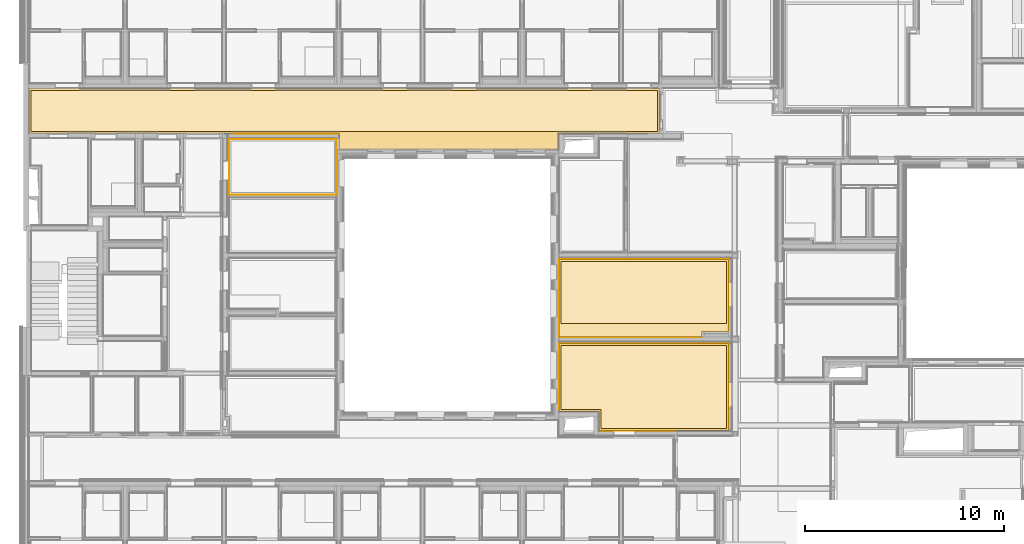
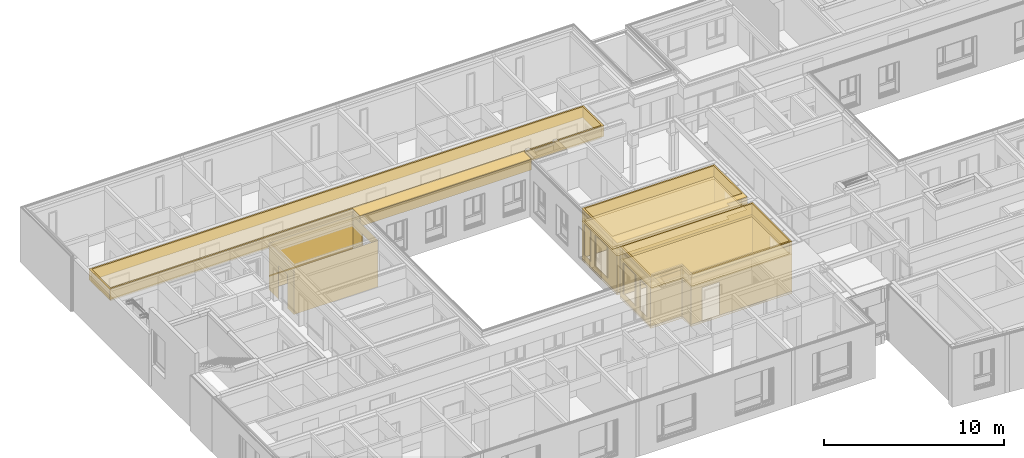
# One storey, part 162 of 222: 28 coverings.
"""IFC4 building model written with IfcOpenShell, lengths in metres."""

from ifc_helpers import new_model, entity, si_unit, converted_unit, derived_unit, frame, frame_2d, origin, origin_with_axes, place, context, subcontext, project, spatial, polyline, rectangle, outline, extrude, material, layer, layer_set, layer_usage, element, save


model = new_model("IFC4")

# Units and contexts
model_context = context("Model", 3, precision=1e-05, world=origin())
body_context = subcontext(model_context, "Body", "Model", "MODEL_VIEW")
ifc_project = project(units=[si_unit("LENGTHUNIT", "METRE"), si_unit("AREAUNIT", "SQUARE_METRE"), si_unit("VOLUMEUNIT", "CUBIC_METRE"), si_unit("MASSUNIT", "GRAM", prefix="KILO"), converted_unit("PLANEANGLEUNIT", "DEGREE", entity("IfcPlaneAngleMeasure", 0.0174532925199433), si_unit("PLANEANGLEUNIT", "RADIAN"), dimensions=[0, 0, 0, 0, 0, 0, 0]), derived_unit("THERMALTRANSMITTANCEUNIT", [(si_unit("POWERUNIT", "WATT"), 1), (si_unit("THERMODYNAMICTEMPERATUREUNIT", "KELVIN"), -1), (si_unit("LENGTHUNIT", "METRE"), -2)]), derived_unit("VOLUMETRICFLOWRATEUNIT", [(si_unit("LENGTHUNIT", "METRE"), 3), (converted_unit("TIMEUNIT", "hour", entity("IfcTimeMeasure", 3600.0), si_unit("TIMEUNIT", "SECOND"), dimensions=[0, 0, 1, 0, 0, 0, 0]), -1), (si_unit("LENGTHUNIT", "METRE"), -1)])], contexts=[model_context])

# Site, building, storey, space
site_placement = place(None, origin())
site = spatial("IfcSite", under=ifc_project, at=site_placement, Name="Psychiatrie Neubau Wunstorf", CompositionType="ELEMENT")
building_placement = place(site_placement, origin())
building = spatial("IfcBuilding", under=site, at=building_placement, Name="Neubau H2 Stationsgebäude", CompositionType="ELEMENT")
storey_placement = place(building_placement, frame((0.0, 0.0, 3.6)))
storey = spatial("IfcBuildingStorey", under=building, at=storey_placement, Name="H2 Ebene +1", CompositionType="ELEMENT", Elevation=3.6)
space_1_placement = place(storey_placement, frame((0.169000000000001, 21.036, 0.0)))
space_1 = spatial("IfcSpace", under=storey, at=space_1_placement, Name="WUN-H2-E01-073", CompositionType="ELEMENT")

# Coverings
ifc_material_1 = material(Name="97")
ifc_layer_1 = layer(ifc_material_1, 0.001)
ifc_layer_set_1 = layer_set([ifc_layer_1])
ifc_layer_usage_1 = layer_usage(ifc_layer_set_1, "AXIS3", "POSITIVE", 0.0)
covering_1_placement = place(space_1_placement, frame((10.241, 0.799999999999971, 0.8)))
element("IfcCovering", 1, at=covering_1_placement, inside=space_1, material=ifc_layer_usage_1, Name="Handlauf", PredefinedType="CLADDING", context=body_context, shape_type="SweptSolid", body=[
    extrude(rectangle(XDim=5.379, YDim=0.1, at=frame_2d((2.6895, -0.05), x_axis=(1.0, 0.0))), frame((0.0, 0.0, 0.0), z_axis=(0.0, 1.0, 0.0), x_axis=(1.0, 0.0, 0.0)), (0.0, 0.0, 1.0), 0.001),
])
ifc_material_2 = material()
ifc_layer_2 = layer(ifc_material_2, 0.036)
ifc_layer_set_2 = layer_set([ifc_layer_2])
ifc_layer_usage_2 = layer_usage(ifc_layer_set_2, "AXIS3", "POSITIVE", 0.0)
covering_2_placement = place(space_1_placement, frame((0.0999999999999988, 0.90000000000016, 3.55)))
element("IfcCovering", 2, at=covering_2_placement, inside=space_1, material=ifc_layer_usage_2, Name="Gipsfaserplatten 2-lagig (BSK)", PredefinedType="CEILING", context=body_context, shape_type="SweptSolid", body=[
    extrude(rectangle(XDim=2.08149999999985, YDim=31.559, at=frame_2d((-15.7795, 1.04074999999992), x_axis=(0.0, 1.0))), frame((31.559, 2.08149999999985, 0.0), z_axis=(0.0, 0.0, -1.0), x_axis=(1.0, 0.0, 0.0)), (0.0, 0.0, 1.0), 0.036),
])
ifc_material_3 = material(Name="Installationshöhe")
ifc_layer_3 = layer(ifc_material_3, 0.714)
ifc_layer_set_3 = layer_set([ifc_layer_3])
ifc_layer_usage_3 = layer_usage(ifc_layer_set_3, "AXIS3", "POSITIVE", 0.0)
covering_3_placement = place(space_1_placement, frame((0.0999999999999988, 0.90000000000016, 3.514)))
element("IfcCovering", 3, at=covering_3_placement, inside=space_1, material=ifc_layer_usage_3, Name="Gipsfaserplatten 2-lagig (BSK)", PredefinedType="CEILING", context=body_context, shape_type="SweptSolid", body=[
    extrude(rectangle(XDim=2.08149999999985, YDim=31.559, at=frame_2d((-15.7795, 1.04074999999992), x_axis=(0.0, 1.0))), frame((31.559, 2.08149999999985, 0.0), z_axis=(0.0, 0.0, -1.0), x_axis=(1.0, 0.0, 0.0)), (0.0, 0.0, 1.0), 0.714),
])
ifc_material_4 = material(Name="Aa")
ifc_layer_4 = layer(ifc_material_4, 0.15)
ifc_layer_set_4 = layer_set([ifc_layer_4])
ifc_layer_usage_4 = layer_usage(ifc_layer_set_4, "AXIS3", "POSITIVE", 0.0)
covering_4_placement = place(space_1_placement, frame((0.0999999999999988, 0.90000000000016, 2.8)))
element("IfcCovering", 4, at=covering_4_placement, inside=space_1, material=ifc_layer_usage_4, Name="Gipsfaserplatten 2-lagig (BSK)", PredefinedType="CEILING", context=body_context, shape_type="SweptSolid", body=[
    extrude(rectangle(XDim=2.08149999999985, YDim=31.559, at=frame_2d((-15.7795, 1.04074999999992), x_axis=(0.0, 1.0))), frame((31.559, 2.08149999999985, 0.0), z_axis=(0.0, 0.0, -1.0), x_axis=(1.0, 0.0, 0.0)), (0.0, 0.0, 1.0), 0.15),
])
ifc_material_5 = material(Name="D1")
ifc_layer_5 = layer(ifc_material_5, 0.001)
ifc_layer_set_5 = layer_set([ifc_layer_5])
ifc_layer_usage_5 = layer_usage(ifc_layer_set_5, "AXIS3", "POSITIVE", 0.0)
covering_5_placement = place(space_1_placement, frame((0.0999999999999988, 0.90000000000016, 2.65)))
element("IfcCovering", 5, at=covering_5_placement, inside=space_1, material=ifc_layer_usage_5, Name="Gipsfaserplatten 2-lagig (BSK)", PredefinedType="CEILING", context=body_context, shape_type="SweptSolid", body=[
    extrude(rectangle(XDim=2.08149999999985, YDim=31.559, at=frame_2d((-15.7795, 1.04074999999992), x_axis=(0.0, 1.0))), frame((31.559, 2.08149999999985, 0.0), z_axis=(0.0, 0.0, -1.0), x_axis=(1.0, 0.0, 0.0)), (0.0, 0.0, 1.0), 0.001),
])
ifc_material_6 = material()
ifc_layer_6 = layer(ifc_material_6, 0.036)
ifc_layer_set_6 = layer_set([ifc_layer_6])
ifc_layer_usage_6 = layer_usage(ifc_layer_set_6, "AXIS3", "POSITIVE", 0.0)
covering_6_placement = place(space_1_placement, frame((0.0, 0.0, 3.55)))
element("IfcCovering", 6, at=covering_6_placement, inside=space_1, material=ifc_layer_usage_6, Name="Gipsfaserplatten 2-lagig (BSK)", PredefinedType="CEILING", context=body_context, shape_type="SweptSolid", body=[
    extrude(outline(polyline([(0.0, 2.28150000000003), (0.0, 0.0), (31.759, 0.0), (31.759, 2.28150000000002), (26.651, 2.2815), (26.651, 3.0815), (15.62, 3.0815), (15.62, 2.28150000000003), (0.0, 2.28150000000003)]), holes=[polyline([(0.1, 0.0999999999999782), (0.1, 2.18149999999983), (31.659, 2.18149999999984), (31.659, 0.0999999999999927), (0.1, 0.0999999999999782)])]), frame((0.0, 3.0815, 0.0), z_axis=(0.0, 0.0, -1.0), x_axis=(1.0, 0.0, 0.0)), (0.0, 0.0, 1.0), 0.036),
])
ifc_material_7 = material(Name="Installationshöhe")
ifc_layer_7 = layer(ifc_material_7, 0.714)
ifc_layer_set_7 = layer_set([ifc_layer_7])
ifc_layer_usage_7 = layer_usage(ifc_layer_set_7, "AXIS3", "POSITIVE", 0.0)
covering_7_placement = place(space_1_placement, frame((0.0, 0.0, 3.514)))
element("IfcCovering", 7, at=covering_7_placement, inside=space_1, material=ifc_layer_usage_7, Name="Gipsfaserplatten 2-lagig (BSK)", PredefinedType="CEILING", context=body_context, shape_type="SweptSolid", body=[
    extrude(outline(polyline([(0.0, 2.28150000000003), (0.0, 0.0), (31.759, 0.0), (31.759, 2.28150000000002), (26.651, 2.2815), (26.651, 3.0815), (15.62, 3.0815), (15.62, 2.28150000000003), (0.0, 2.28150000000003)]), holes=[polyline([(0.1, 0.0999999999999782), (0.1, 2.18149999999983), (31.659, 2.18149999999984), (31.659, 0.0999999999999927), (0.1, 0.0999999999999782)])]), frame((0.0, 3.0815, 0.0), z_axis=(0.0, 0.0, -1.0), x_axis=(1.0, 0.0, 0.0)), (0.0, 0.0, 1.0), 0.714),
])

# Space
space_2_placement = place(storey_placement, frame((10.2390000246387, 18.768, 0.0)))
space_2 = spatial("IfcSpace", under=storey, at=space_2_placement, Name="WUN-H2-E01-033", CompositionType="ELEMENT")

# Covering
ifc_material_8 = material(Name="49")
ifc_layer_8 = layer(ifc_material_8, 0.001)
ifc_layer_set_8 = layer_set([ifc_layer_8])
ifc_layer_usage_8 = layer_usage(ifc_layer_set_8, "AXIS3", "POSITIVE", 0.0)
covering_8_placement = place(space_2_placement, frame((0.0, 0.0, 0.15)))
element("IfcCovering", 8, at=covering_8_placement, inside=space_2, material=ifc_layer_usage_8, PredefinedType="CLADDING", context=body_context, shape_type="SweptSolid", body=[
    extrude(rectangle(XDim=5.39999997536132, YDim=3.15, at=frame_2d((2.69999998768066, -1.575), x_axis=(1.0, 0.0))), frame((5.39999997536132, 2.79599999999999, 0.0), z_axis=(0.0, -1.0, 0.0), x_axis=(-1.0, 0.0, 0.0)), (0.0, 0.0, 1.0), 0.001),
    extrude(outline(polyline([(0.0, 3.15), (1.086, 3.15), (1.086, 0.89), (2.096, 0.89), (2.096, 3.15), (2.79599999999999, 3.15), (2.79599999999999, 0.0), (0.0, 0.0), (0.0, 3.15)])), frame((0.0, 2.79599999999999, 3.15), z_axis=(1.0, 0.0, -1.88932951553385e-16), x_axis=(0.0, -1.0, 0.0)), (0.0, 0.0, 1.0), 0.001),
    extrude(rectangle(XDim=5.39999997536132, YDim=3.15, at=frame_2d((2.69999998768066, -1.575), x_axis=(1.0, 0.0))), frame((0.0, 0.0, 0.0), z_axis=(0.0, 1.0, 0.0), x_axis=(1.0, 0.0, 0.0)), (0.0, 0.0, 1.0), 0.001),
    extrude(outline(polyline([(0.0, 3.15), (2.79599999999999, 3.15), (2.79599999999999, 0.0), (0.0, 0.0), (0.0, 3.15)]), holes=[polyline([(1.75699999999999, 2.75), (0.406999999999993, 2.75), (0.406999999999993, 0.635), (1.75699999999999, 0.635), (1.75699999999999, 2.75)])]), frame((5.39999997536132, 0.0, 3.15), z_axis=(-1.0, 0.0, 0.0), x_axis=(0.0, 1.0, 0.0)), (0.0, 0.0, 1.0), 0.001),
    extrude(rectangle(XDim=1.35, YDim=0.05, at=frame_2d((-0.025, -0.675), x_axis=(0.0, -1.0))), frame((5.44999997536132, 0.406999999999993, 2.515), z_axis=(0.0, 0.0, -1.0), x_axis=(1.0, 0.0, 0.0)), (0.0, 0.0, 1.0), 0.001),
    extrude(rectangle(XDim=2.115, YDim=0.05, at=frame_2d((-0.025, -1.0575), x_axis=(0.0, -1.0))), frame((5.44999997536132, 0.406999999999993, 0.4), z_axis=(0.0, 1.0, 0.0), x_axis=(1.0, 0.0, 0.0)), (0.0, 0.0, 1.0), 0.001),
    extrude(rectangle(XDim=2.115, YDim=0.05, at=frame_2d((-0.025, -1.0575), x_axis=(0.0, -1.0))), frame((5.39999997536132, 1.75699999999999, 0.4), z_axis=(0.0, -1.0, 0.0), x_axis=(-1.0, 0.0, 0.0)), (0.0, 0.0, 1.0), 0.001),
])

# Space
space_3_placement = place(storey_placement, frame((26.861, 6.88399999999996, 0.0)))
space_3 = spatial("IfcSpace", under=storey, at=space_3_placement, Name="WUN-H2-E01-073", CompositionType="ELEMENT")

# Coverings
ifc_material_9 = material()
ifc_layer_9 = layer(ifc_material_9, 0.036)
ifc_layer_set_9 = layer_set([ifc_layer_9])
ifc_layer_usage_9 = layer_usage(ifc_layer_set_9, "AXIS3", "POSITIVE", 0.0)
covering_9_placement = place(space_3_placement, frame((0.1, 0.100000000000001, 3.55)))
element("IfcCovering", 9, at=covering_9_placement, inside=space_3, material=ifc_layer_usage_9, Name="Gipsfaserplatten 2-lagig (BSK)", PredefinedType="CEILING", context=body_context, shape_type="SweptSolid", body=[
    extrude(outline(polyline([(0.0, 0.0), (8.31900000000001, 0.0), (8.31900000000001, 4.18355754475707), (2.01900000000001, 4.18355754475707), (2.01900000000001, 3.21255754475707), (0.0, 3.21255754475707), (0.0, 0.0)])), frame((0.0, 4.18355754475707, 0.0), z_axis=(0.0, 0.0, -1.0), x_axis=(1.0, 0.0, 0.0)), (0.0, 0.0, 1.0), 0.036),
])
ifc_material_10 = material(Name="Installationshöhe")
ifc_layer_10 = layer(ifc_material_10, 0.714)
ifc_layer_set_10 = layer_set([ifc_layer_10])
ifc_layer_usage_10 = layer_usage(ifc_layer_set_10, "AXIS3", "POSITIVE", 0.0)
covering_10_placement = place(space_3_placement, frame((0.1, 0.100000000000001, 3.514)))
element("IfcCovering", 10, at=covering_10_placement, inside=space_3, material=ifc_layer_usage_10, Name="Gipsfaserplatten 2-lagig (BSK)", PredefinedType="CEILING", context=body_context, shape_type="SweptSolid", body=[
    extrude(outline(polyline([(0.0, 0.0), (8.31900000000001, 0.0), (8.31900000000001, 4.18355754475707), (2.01900000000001, 4.18355754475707), (2.01900000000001, 3.21255754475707), (0.0, 3.21255754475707), (0.0, 0.0)])), frame((0.0, 4.18355754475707, 0.0), z_axis=(0.0, 0.0, -1.0), x_axis=(1.0, 0.0, 0.0)), (0.0, 0.0, 1.0), 0.714),
])
ifc_material_11 = material(Name="Aa")
ifc_layer_11 = layer(ifc_material_11, 0.15)
ifc_layer_set_11 = layer_set([ifc_layer_11])
ifc_layer_usage_11 = layer_usage(ifc_layer_set_11, "AXIS3", "POSITIVE", 0.0)
covering_11_placement = place(space_3_placement, frame((0.1, 0.100000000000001, 2.8)))
element("IfcCovering", 11, at=covering_11_placement, inside=space_3, material=ifc_layer_usage_11, Name="Gipsfaserplatten 2-lagig (BSK)", PredefinedType="CEILING", context=body_context, shape_type="SweptSolid", body=[
    extrude(outline(polyline([(0.0, 0.0), (8.31900000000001, 0.0), (8.31900000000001, 4.18355754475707), (2.01900000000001, 4.18355754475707), (2.01900000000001, 3.21255754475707), (0.0, 3.21255754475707), (0.0, 0.0)])), frame((0.0, 4.18355754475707, 0.0), z_axis=(0.0, 0.0, -1.0), x_axis=(1.0, 0.0, 0.0)), (0.0, 0.0, 1.0), 0.15),
])
ifc_material_12 = material(Name="D1")
ifc_layer_12 = layer(ifc_material_12, 0.001)
ifc_layer_set_12 = layer_set([ifc_layer_12])
ifc_layer_usage_12 = layer_usage(ifc_layer_set_12, "AXIS3", "POSITIVE", 0.0)
covering_12_placement = place(space_3_placement, frame((0.1, 0.100000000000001, 2.65)))
element("IfcCovering", 12, at=covering_12_placement, inside=space_3, material=ifc_layer_usage_12, Name="Gipsfaserplatten 2-lagig (BSK)", PredefinedType="CEILING", context=body_context, shape_type="SweptSolid", body=[
    extrude(outline(polyline([(0.0, 0.0), (8.31900000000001, 0.0), (8.31900000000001, 4.18355754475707), (2.01900000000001, 4.18355754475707), (2.01900000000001, 3.21255754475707), (0.0, 3.21255754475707), (0.0, 0.0)])), frame((0.0, 4.18355754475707, 0.0), z_axis=(0.0, 0.0, -1.0), x_axis=(1.0, 0.0, 0.0)), (0.0, 0.0, 1.0), 0.001),
])
ifc_material_13 = material()
ifc_layer_13 = layer(ifc_material_13, 0.036)
ifc_layer_set_13 = layer_set([ifc_layer_13])
ifc_layer_usage_13 = layer_usage(ifc_layer_set_13, "AXIS3", "POSITIVE", 0.0)
covering_13_placement = place(space_3_placement, frame((0.0, 0.0, 3.55)))
element("IfcCovering", 13, at=covering_13_placement, inside=space_3, material=ifc_layer_usage_13, Name="Gipsfaserplatten 2-lagig (BSK)", PredefinedType="CEILING", context=body_context, shape_type="SweptSolid", body=[
    extrude(outline(polyline([(2.01900000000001, 3.41255754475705), (0.0, 3.41255754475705), (0.0, 0.0), (8.51900000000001, 0.0), (8.51900000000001, 4.38355754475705), (2.01900000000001, 4.38355754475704), (2.01900000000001, 3.41255754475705)]), holes=[polyline([(2.11900000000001, 3.31255754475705), (2.11900000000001, 4.28355754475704), (8.41900000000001, 4.28355754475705), (8.41900000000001, 0.0999999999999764), (0.1, 0.0999999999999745), (0.1, 3.31255754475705), (2.11900000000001, 3.31255754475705)])]), frame((0.0, 4.38355754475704, 0.0), z_axis=(0.0, 0.0, -1.0), x_axis=(1.0, 0.0, 0.0)), (0.0, 0.0, 1.0), 0.036),
])
ifc_material_14 = material(Name="Installationshöhe")
ifc_layer_14 = layer(ifc_material_14, 0.714)
ifc_layer_set_14 = layer_set([ifc_layer_14])
ifc_layer_usage_14 = layer_usage(ifc_layer_set_14, "AXIS3", "POSITIVE", 0.0)
covering_14_placement = place(space_3_placement, frame((0.0, 0.0, 3.514)))
element("IfcCovering", 14, at=covering_14_placement, inside=space_3, material=ifc_layer_usage_14, Name="Gipsfaserplatten 2-lagig (BSK)", PredefinedType="CEILING", context=body_context, shape_type="SweptSolid", body=[
    extrude(outline(polyline([(2.01900000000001, 3.41255754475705), (0.0, 3.41255754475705), (0.0, 0.0), (8.51900000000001, 0.0), (8.51900000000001, 4.38355754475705), (2.01900000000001, 4.38355754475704), (2.01900000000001, 3.41255754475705)]), holes=[polyline([(2.11900000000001, 3.31255754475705), (2.11900000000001, 4.28355754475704), (8.41900000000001, 4.28355754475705), (8.41900000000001, 0.0999999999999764), (0.1, 0.0999999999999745), (0.1, 3.31255754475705), (2.11900000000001, 3.31255754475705)])]), frame((0.0, 4.38355754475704, 0.0), z_axis=(0.0, 0.0, -1.0), x_axis=(1.0, 0.0, 0.0)), (0.0, 0.0, 1.0), 0.714),
])
ifc_material_15 = material(Name="A1")
ifc_layer_15 = layer(ifc_material_15, 0.15)
ifc_layer_set_15 = layer_set([ifc_layer_15])
ifc_layer_usage_15 = layer_usage(ifc_layer_set_15, "AXIS3", "POSITIVE", 0.0)
covering_15_placement = place(space_3_placement, frame((0.0, 0.0, 2.8)))
element("IfcCovering", 15, at=covering_15_placement, inside=space_3, material=ifc_layer_usage_15, Name="Gipsfaserplatten 2-lagig (BSK)", PredefinedType="CEILING", context=body_context, shape_type="SweptSolid", body=[
    extrude(outline(polyline([(2.01900000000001, 3.41255754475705), (0.0, 3.41255754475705), (0.0, 0.0), (8.51900000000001, 0.0), (8.51900000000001, 4.38355754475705), (2.01900000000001, 4.38355754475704), (2.01900000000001, 3.41255754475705)]), holes=[polyline([(2.11900000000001, 3.31255754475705), (2.11900000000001, 4.28355754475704), (8.41900000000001, 4.28355754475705), (8.41900000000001, 0.0999999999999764), (0.1, 0.0999999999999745), (0.1, 3.31255754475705), (2.11900000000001, 3.31255754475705)])]), frame((0.0, 4.38355754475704, 0.0), z_axis=(0.0, 0.0, -1.0), x_axis=(1.0, 0.0, 0.0)), (0.0, 0.0, 1.0), 0.15),
])
ifc_material_16 = material(Name="D1")
ifc_layer_16 = layer(ifc_material_16, 0.001)
ifc_layer_set_16 = layer_set([ifc_layer_16])
ifc_layer_usage_16 = layer_usage(ifc_layer_set_16, "AXIS3", "POSITIVE", 0.0)
covering_16_placement = place(space_3_placement, frame((0.0, 0.0, 2.65)))
element("IfcCovering", 16, at=covering_16_placement, inside=space_3, material=ifc_layer_usage_16, Name="Gipsfaserplatten 2-lagig (BSK)", PredefinedType="CEILING", context=body_context, shape_type="SweptSolid", body=[
    extrude(outline(polyline([(2.01900000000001, 3.41255754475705), (0.0, 3.41255754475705), (0.0, 0.0), (8.51900000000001, 0.0), (8.51900000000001, 4.38355754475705), (2.01900000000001, 4.38355754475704), (2.01900000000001, 3.41255754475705)]), holes=[polyline([(2.11900000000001, 3.31255754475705), (2.11900000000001, 4.28355754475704), (8.41900000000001, 4.28355754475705), (8.41900000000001, 0.0999999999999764), (0.1, 0.0999999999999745), (0.1, 3.31255754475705), (2.11900000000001, 3.31255754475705)])]), frame((0.0, 4.38355754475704, 0.0), z_axis=(0.0, 0.0, -1.0), x_axis=(1.0, 0.0, 0.0)), (0.0, 0.0, 1.0), 0.001),
])
ifc_material_17 = material(Name="Ku1")
ifc_layer_17 = layer(ifc_material_17, 0.15)
ifc_layer_set_17 = layer_set([ifc_layer_17])
ifc_layer_usage_17 = layer_usage(ifc_layer_set_17, "AXIS3", "POSITIVE", 0.0)
covering_17_placement = place(space_3_placement, origin())
element("IfcCovering", 17, at=covering_17_placement, inside=space_3, material=ifc_layer_usage_17, Name="PVC Bahnenware Holzoptik", PredefinedType="FLOORING", context=body_context, shape_type="SweptSolid", body=[
    extrude(rectangle(XDim=0.19, YDim=1.26, at=frame_2d((-0.095, -0.63), x_axis=(-1.0, 0.0))), frame((8.70900000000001, 2.42600413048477, 0.0), z_axis=(0.0, 0.0, 1.0), x_axis=(1.0, 0.0, 0.0)), (0.0, 0.0, 1.0), 0.15),
    extrude(outline(polyline([(0.0, 4.38355754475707), (0.0, 0.971), (2.01900000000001, 0.971), (2.01900000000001, 0.0), (8.51900000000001, 0.0), (8.51900000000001, 4.38355754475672), (0.0, 4.38355754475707)])), origin_with_axes(), (0.0, 0.0, 1.0), 0.15),
])
ifc_material_18 = material(Name="49")
ifc_layer_18 = layer(ifc_material_18, 0.001)
ifc_layer_set_18 = layer_set([ifc_layer_18])
ifc_layer_usage_18 = layer_usage(ifc_layer_set_18, "AXIS3", "POSITIVE", 0.0)
covering_18_placement = place(space_3_placement, frame((-0.05, 0.0, 0.15)))
element("IfcCovering", 18, at=covering_18_placement, inside=space_3, material=ifc_layer_usage_18, PredefinedType="CLADDING", context=body_context, shape_type="SweptSolid", body=[
    extrude(outline(polyline([(0.0, 3.15), (1.16600413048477, 3.15), (1.16600413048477, 0.89), (2.42600413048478, 0.89), (2.42600413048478, 3.15), (4.38355754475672, 3.15), (4.38355754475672, 0.0), (0.0, 0.0), (0.0, 3.15)])), frame((8.56900000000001, 0.0, 3.15), z_axis=(-1.0, 1.53289147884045e-15, 5.90285882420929e-16), x_axis=(1.53289147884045e-15, 1.0, 0.0)), (0.0, 0.0, 1.0), 0.001),
    extrude(rectangle(XDim=8.51900000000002, YDim=3.15, at=frame_2d((4.25950000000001, -1.575), x_axis=(1.0, 0.0))), frame((8.56900000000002, 4.38355754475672, 0.0), z_axis=(-4.16366866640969e-14, -1.0, 0.0), x_axis=(-1.0, 4.16366866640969e-14, 0.0)), (0.0, 0.0, 1.0), 0.001),
    extrude(outline(polyline([(0.0, 3.15), (3.41255754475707, 3.15), (3.41255754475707, 0.0), (0.0, 0.0), (0.0, 3.15)]), holes=[polyline([(1.77511276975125, 2.75), (0.425112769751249, 2.75), (0.425112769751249, 0.635), (1.77511276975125, 0.635), (1.77511276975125, 2.75)]), polyline([(3.02511275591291, 2.75), (2.30011275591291, 2.75), (2.30011275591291, 0.635), (3.02511275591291, 0.635), (3.02511275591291, 2.75)])]), frame((0.0500000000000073, 4.38355754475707, 3.15), z_axis=(1.0, 4.73539006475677e-16, 0.0), x_axis=(4.73539006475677e-16, -1.0, 0.0)), (0.0, 0.0, 1.0), 0.001),
    extrude(rectangle(XDim=2.01900000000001, YDim=3.15, at=frame_2d((1.00950000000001, -1.575), x_axis=(1.0, 0.0))), frame((0.05, 0.971000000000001, 0.0), z_axis=(0.0, 1.0, 0.0), x_axis=(1.0, 0.0, 0.0)), (0.0, 0.0, 1.0), 0.001),
    extrude(rectangle(XDim=0.970999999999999, YDim=3.15, at=frame_2d((0.4855, -1.575), x_axis=(1.0, 0.0))), frame((2.06900000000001, 0.971000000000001, 0.0), z_axis=(1.0, 0.0, 0.0), x_axis=(0.0, -1.0, 0.0)), (0.0, 0.0, 1.0), 0.001),
    extrude(outline(polyline([(0.0, 3.15), (0.699999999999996, 3.15), (0.699999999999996, 0.89), (1.835, 0.89), (1.835, 3.15), (6.5, 3.15), (6.5, 0.0), (0.0, 0.0), (0.0, 3.15)])), frame((2.06900000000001, 0.0, 3.15), z_axis=(2.19046199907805e-16, 1.0, -8.8063860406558e-18), x_axis=(1.0, -2.19046199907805e-16, 0.0)), (0.0, 0.0, 1.0), 0.001),
    extrude(rectangle(XDim=1.35, YDim=0.05, at=frame_2d((0.025, 0.675), x_axis=(0.0, 1.0))), frame((0.0, 3.95844477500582, 2.515), z_axis=(0.0, 0.0, -1.0), x_axis=(1.0, 0.0, 0.0)), (0.0, 0.0, 1.0), 0.001),
    extrude(rectangle(XDim=2.115, YDim=0.05, at=frame_2d((-0.025, -1.0575), x_axis=(0.0, -1.0))), frame((0.0, 3.95844477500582, 0.4), z_axis=(0.0, -1.0, 0.0), x_axis=(-1.0, 0.0, 0.0)), (0.0, 0.0, 1.0), 0.001),
    extrude(rectangle(XDim=2.115, YDim=0.05, at=frame_2d((-0.025, -1.0575), x_axis=(0.0, -1.0))), frame((0.05, 2.60844477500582, 0.4), z_axis=(0.0, 1.0, 0.0), x_axis=(1.0, 0.0, 0.0)), (0.0, 0.0, 1.0), 0.001),
    extrude(rectangle(XDim=0.0500000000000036, YDim=0.725, at=frame_2d((-0.0250000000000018, 0.3625), x_axis=(-1.0, 0.0))), frame((0.0500000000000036, 2.08344478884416, 2.515), z_axis=(0.0, 0.0, -1.0), x_axis=(1.0, 0.0, 0.0)), (0.0, 0.0, 1.0), 0.001),
    extrude(rectangle(XDim=0.0500000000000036, YDim=2.115, at=frame_2d((0.0250000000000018, -1.0575), x_axis=(1.0, 0.0))), frame((0.0500000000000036, 2.08344478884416, 0.4), z_axis=(0.0, -1.0, 0.0), x_axis=(-1.0, 0.0, 0.0)), (0.0, 0.0, 1.0), 0.001),
    extrude(rectangle(XDim=2.115, YDim=0.0500000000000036, at=frame_2d((-0.0250000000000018, -1.0575), x_axis=(0.0, -1.0))), frame((0.0500000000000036, 1.35844478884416, 0.4), z_axis=(0.0, 1.0, 0.0), x_axis=(1.0, 0.0, 0.0)), (0.0, 0.0, 1.0), 0.001),
])

# Space
space_4_placement = place(storey_placement, frame((26.861, 11.5895607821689, 0.0)))
space_4 = spatial("IfcSpace", under=storey, at=space_4_placement, Name="WUN-H2-E01-073", CompositionType="ELEMENT")

# Coverings
ifc_material_19 = material()
ifc_layer_19 = layer(ifc_material_19, 0.036)
ifc_layer_set_19 = layer_set([ifc_layer_19])
ifc_layer_usage_19 = layer_usage(ifc_layer_set_19, "AXIS3", "POSITIVE", 0.0)
covering_19_placement = place(space_4_placement, frame((0.100000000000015, 0.699996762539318, 3.55)))
element("IfcCovering", 19, at=covering_19_placement, inside=space_4, material=ifc_layer_usage_19, Name="Gipsfaserplatten 2-lagig (BSK)", PredefinedType="CEILING", context=body_context, shape_type="SweptSolid", body=[
    extrude(rectangle(XDim=3.12094154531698, YDim=8.319, at=frame_2d((-4.1595, 1.56047077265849), x_axis=(0.0, 1.0))), frame((8.319, 3.12094154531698, 0.0), z_axis=(0.0, 0.0, -1.0), x_axis=(1.0, 0.0, 0.0)), (0.0, 0.0, 1.0), 0.036),
])
ifc_material_20 = material(Name="Installationshöhe")
ifc_layer_20 = layer(ifc_material_20, 0.714)
ifc_layer_set_20 = layer_set([ifc_layer_20])
ifc_layer_usage_20 = layer_usage(ifc_layer_set_20, "AXIS3", "POSITIVE", 0.0)
covering_20_placement = place(space_4_placement, frame((0.100000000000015, 0.699996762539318, 3.514)))
element("IfcCovering", 20, at=covering_20_placement, inside=space_4, material=ifc_layer_usage_20, Name="Gipsfaserplatten 2-lagig (BSK)", PredefinedType="CEILING", context=body_context, shape_type="SweptSolid", body=[
    extrude(rectangle(XDim=3.12094154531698, YDim=8.319, at=frame_2d((-4.1595, 1.56047077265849), x_axis=(0.0, 1.0))), frame((8.319, 3.12094154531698, 0.0), z_axis=(0.0, 0.0, -1.0), x_axis=(1.0, 0.0, 0.0)), (0.0, 0.0, 1.0), 0.714),
])
ifc_material_21 = material(Name="Aa")
ifc_layer_21 = layer(ifc_material_21, 0.15)
ifc_layer_set_21 = layer_set([ifc_layer_21])
ifc_layer_usage_21 = layer_usage(ifc_layer_set_21, "AXIS3", "POSITIVE", 0.0)
covering_21_placement = place(space_4_placement, frame((0.100000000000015, 0.699996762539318, 2.8)))
element("IfcCovering", 21, at=covering_21_placement, inside=space_4, material=ifc_layer_usage_21, Name="Gipsfaserplatten 2-lagig (BSK)", PredefinedType="CEILING", context=body_context, shape_type="SweptSolid", body=[
    extrude(rectangle(XDim=3.12094154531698, YDim=8.319, at=frame_2d((-4.1595, 1.56047077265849), x_axis=(0.0, 1.0))), frame((8.319, 3.12094154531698, 0.0), z_axis=(0.0, 0.0, -1.0), x_axis=(1.0, 0.0, 0.0)), (0.0, 0.0, 1.0), 0.15),
])
ifc_material_22 = material(Name="D1")
ifc_layer_22 = layer(ifc_material_22, 0.001)
ifc_layer_set_22 = layer_set([ifc_layer_22])
ifc_layer_usage_22 = layer_usage(ifc_layer_set_22, "AXIS3", "POSITIVE", 0.0)
covering_22_placement = place(space_4_placement, frame((0.100000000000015, 0.699996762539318, 2.65)))
element("IfcCovering", 22, at=covering_22_placement, inside=space_4, material=ifc_layer_usage_22, Name="Gipsfaserplatten 2-lagig (BSK)", PredefinedType="CEILING", context=body_context, shape_type="SweptSolid", body=[
    extrude(rectangle(XDim=3.12094154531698, YDim=8.319, at=frame_2d((-4.1595, 1.56047077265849), x_axis=(0.0, 1.0))), frame((8.319, 3.12094154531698, 0.0), z_axis=(0.0, 0.0, -1.0), x_axis=(1.0, 0.0, 0.0)), (0.0, 0.0, 1.0), 0.001),
])
ifc_material_23 = material()
ifc_layer_23 = layer(ifc_material_23, 0.036)
ifc_layer_set_23 = layer_set([ifc_layer_23])
ifc_layer_usage_23 = layer_usage(ifc_layer_set_23, "AXIS3", "POSITIVE", 0.0)
covering_23_placement = place(space_4_placement, frame((0.0, -3.23741189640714e-06, 3.55)))
element("IfcCovering", 23, at=covering_23_placement, inside=space_4, material=ifc_layer_usage_23, Name="Gipsfaserplatten 2-lagig (BSK)", PredefinedType="CEILING", context=body_context, shape_type="SweptSolid", body=[
    extrude(outline(polyline([(0.0, 3.9209415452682), (0.0, 0.0), (8.51900000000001, 0.0), (8.519, 3.64594478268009), (7.20900000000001, 3.64594478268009), (7.20900000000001, 3.9209415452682), (0.0, 3.9209415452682)]), holes=[polyline([(8.419, 0.1), (0.1, 0.1), (0.1, 3.22094154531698), (8.419, 3.22094154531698), (8.419, 0.1)])]), frame((0.0, 3.92094154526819, 0.0), z_axis=(0.0, 0.0, -1.0), x_axis=(1.0, 0.0, 0.0)), (0.0, 0.0, 1.0), 0.036),
])
ifc_material_24 = material(Name="Installationshöhe")
ifc_layer_24 = layer(ifc_material_24, 0.714)
ifc_layer_set_24 = layer_set([ifc_layer_24])
ifc_layer_usage_24 = layer_usage(ifc_layer_set_24, "AXIS3", "POSITIVE", 0.0)
covering_24_placement = place(space_4_placement, frame((0.0, -3.23741189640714e-06, 3.514)))
element("IfcCovering", 24, at=covering_24_placement, inside=space_4, material=ifc_layer_usage_24, Name="Gipsfaserplatten 2-lagig (BSK)", PredefinedType="CEILING", context=body_context, shape_type="SweptSolid", body=[
    extrude(outline(polyline([(0.0, 3.9209415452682), (0.0, 0.0), (8.51900000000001, 0.0), (8.519, 3.64594478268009), (7.20900000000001, 3.64594478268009), (7.20900000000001, 3.9209415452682), (0.0, 3.9209415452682)]), holes=[polyline([(8.419, 0.1), (0.1, 0.1), (0.1, 3.22094154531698), (8.419, 3.22094154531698), (8.419, 0.1)])]), frame((0.0, 3.92094154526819, 0.0), z_axis=(0.0, 0.0, -1.0), x_axis=(1.0, 0.0, 0.0)), (0.0, 0.0, 1.0), 0.714),
])
ifc_material_25 = material(Name="A1")
ifc_layer_25 = layer(ifc_material_25, 0.15)
ifc_layer_set_25 = layer_set([ifc_layer_25])
ifc_layer_usage_25 = layer_usage(ifc_layer_set_25, "AXIS3", "POSITIVE", 0.0)
covering_25_placement = place(space_4_placement, frame((0.0, -3.23741189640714e-06, 2.8)))
element("IfcCovering", 25, at=covering_25_placement, inside=space_4, material=ifc_layer_usage_25, Name="Gipsfaserplatten 2-lagig (BSK)", PredefinedType="CEILING", context=body_context, shape_type="SweptSolid", body=[
    extrude(outline(polyline([(0.0, 3.9209415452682), (0.0, 0.0), (8.51900000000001, 0.0), (8.519, 3.64594478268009), (7.20900000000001, 3.64594478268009), (7.20900000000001, 3.9209415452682), (0.0, 3.9209415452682)]), holes=[polyline([(8.419, 0.1), (0.1, 0.1), (0.1, 3.22094154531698), (8.419, 3.22094154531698), (8.419, 0.1)])]), frame((0.0, 3.92094154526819, 0.0), z_axis=(0.0, 0.0, -1.0), x_axis=(1.0, 0.0, 0.0)), (0.0, 0.0, 1.0), 0.15),
])
ifc_material_26 = material(Name="D1")
ifc_layer_26 = layer(ifc_material_26, 0.001)
ifc_layer_set_26 = layer_set([ifc_layer_26])
ifc_layer_usage_26 = layer_usage(ifc_layer_set_26, "AXIS3", "POSITIVE", 0.0)
covering_26_placement = place(space_4_placement, frame((0.0, -3.23741189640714e-06, 2.65)))
element("IfcCovering", 26, at=covering_26_placement, inside=space_4, material=ifc_layer_usage_26, Name="Gipsfaserplatten 2-lagig (BSK)", PredefinedType="CEILING", context=body_context, shape_type="SweptSolid", body=[
    extrude(outline(polyline([(0.0, 3.9209415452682), (0.0, 0.0), (8.51900000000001, 0.0), (8.519, 3.64594478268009), (7.20900000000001, 3.64594478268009), (7.20900000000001, 3.9209415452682), (0.0, 3.9209415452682)]), holes=[polyline([(8.419, 0.1), (0.1, 0.1), (0.1, 3.22094154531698), (8.419, 3.22094154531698), (8.419, 0.1)])]), frame((0.0, 3.92094154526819, 0.0), z_axis=(0.0, 0.0, -1.0), x_axis=(1.0, 0.0, 0.0)), (0.0, 0.0, 1.0), 0.001),
])
ifc_material_27 = material(Name="Ku1")
ifc_layer_27 = layer(ifc_material_27, 0.15)
ifc_layer_set_27 = layer_set([ifc_layer_27])
ifc_layer_usage_27 = layer_usage(ifc_layer_set_27, "AXIS3", "POSITIVE", 0.0)
covering_27_placement = place(space_4_placement, origin())
element("IfcCovering", 27, at=covering_27_placement, inside=space_4, material=ifc_layer_usage_27, Name="PVC Bahnenware Holzoptik", PredefinedType="FLOORING", context=body_context, shape_type="SweptSolid", body=[
    extrude(rectangle(XDim=0.19, YDim=1.26, at=frame_2d((-0.095, -0.63), x_axis=(-1.0, 0.0))), frame((8.70900000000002, 2.77043921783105, 0.0), z_axis=(0.0, 0.0, 1.0), x_axis=(1.0, 0.0, 0.0)), (0.0, 0.0, 1.0), 0.15),
    extrude(outline(polyline([(8.51900000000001, 3.9209383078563), (0.0, 3.9209383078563), (0.0, 0.0), (7.20900000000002, 0.0), (7.20900000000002, 0.274993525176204), (8.51900000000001, 0.274993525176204), (8.51900000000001, 3.9209383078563)])), origin_with_axes(), (0.0, 0.0, 1.0), 0.15),
])
ifc_material_28 = material(Name="49")
ifc_layer_28 = layer(ifc_material_28, 0.001)
ifc_layer_set_28 = layer_set([ifc_layer_28])
ifc_layer_usage_28 = layer_usage(ifc_layer_set_28, "AXIS3", "POSITIVE", 0.0)
covering_28_placement = place(space_4_placement, frame((-0.0499999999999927, 0.0, 0.15)))
element("IfcCovering", 28, at=covering_28_placement, inside=space_4, material=ifc_layer_usage_28, PredefinedType="CLADDING", context=body_context, shape_type="SweptSolid", body=[
    extrude(rectangle(XDim=1.30999999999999, YDim=3.15, at=frame_2d((0.654999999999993, -1.575), x_axis=(1.0, 0.0))), frame((7.25900000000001, 0.274993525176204, 0.0), z_axis=(0.0, 1.0, 0.0), x_axis=(1.0, 0.0, 0.0)), (0.0, 0.0, 1.0), 0.001),
    extrude(outline(polyline([(0.0, 3.15), (1.23544569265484, 3.15), (1.23544569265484, 0.89), (2.49544569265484, 0.89), (2.49544569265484, 3.15), (3.64594478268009, 3.15), (3.64594478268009, 0.0), (0.0, 0.0), (0.0, 3.15)])), frame((8.56900000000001, 0.274993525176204, 3.15), z_axis=(-1.0, 1.68673336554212e-15, 1.2235889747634e-17), x_axis=(1.68673336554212e-15, 1.0, 0.0)), (0.0, 0.0, 1.0), 0.001),
    extrude(rectangle(XDim=8.519, YDim=3.15, at=frame_2d((4.2595, -1.575), x_axis=(1.0, 0.0))), frame((8.56900000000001, 3.9209383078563, 0.0), z_axis=(0.0, -1.0, 0.0), x_axis=(-1.0, 0.0, 0.0)), (0.0, 0.0, 1.0), 0.001),
    extrude(outline(polyline([(0.0, 3.15), (3.9209383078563, 3.15), (3.9209383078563, 0.0), (0.0, 0.0), (0.0, 3.15)]), holes=[polyline([(1.02044154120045, 2.75), (0.295441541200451, 2.75), (0.295441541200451, 0.635), (1.02044154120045, 0.635), (1.02044154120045, 2.75)]), polyline([(2.89469842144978, 2.75), (1.54469842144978, 2.75), (1.54469842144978, 0.635), (2.89469842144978, 0.635), (2.89469842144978, 2.75)])]), frame((0.0500000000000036, 3.9209383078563, 3.15), z_axis=(1.0, -2.12003972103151e-15, 0.0), x_axis=(-2.12003972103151e-15, -1.0, 0.0)), (0.0, 0.0, 1.0), 0.001),
    extrude(rectangle(XDim=7.20900000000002, YDim=3.15, at=frame_2d((3.60450000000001, -1.575), x_axis=(1.0, 0.0))), frame((0.0499999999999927, 0.0, 0.0), z_axis=(0.0, 1.0, 0.0), x_axis=(1.0, 0.0, 0.0)), (0.0, 0.0, 1.0), 0.001),
    extrude(rectangle(XDim=0.274993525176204, YDim=3.15, at=frame_2d((0.137496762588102, -1.575), x_axis=(1.0, 0.0))), frame((7.25900000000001, 0.0, 0.0), z_axis=(-1.0, 0.0, 0.0), x_axis=(0.0, 1.0, 0.0)), (0.0, 0.0, 1.0), 0.001),
    extrude(rectangle(XDim=0.724999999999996, YDim=0.0499999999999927, at=frame_2d((0.0249999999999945, 0.362499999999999), x_axis=(-5.01790180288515e-15, 1.0))), frame((0.0, 3.62549676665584, 2.515), z_axis=(0.0, 0.0, -1.0), x_axis=(1.0, 0.0, 0.0)), (0.0, 0.0, 1.0), 0.001),
    extrude(rectangle(XDim=2.115, YDim=0.0499999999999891, at=frame_2d((-0.0249999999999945, -1.0575), x_axis=(0.0, -1.0))), frame((0.0, 3.62549676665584, 0.4), z_axis=(3.63797880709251e-14, -1.0, 0.0), x_axis=(-1.0, -3.63797880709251e-14, 0.0)), (0.0, 0.0, 1.0), 0.001),
    extrude(rectangle(XDim=2.115, YDim=0.0499999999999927, at=frame_2d((-0.0249999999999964, -1.0575), x_axis=(0.0, -1.0))), frame((0.0499999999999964, 2.90049676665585, 0.4), z_axis=(3.63797880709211e-14, 1.0, -3.12881555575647e-29), x_axis=(1.0, -3.63797880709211e-14, 0.0)), (0.0, 0.0, 1.0), 0.001),
    extrude(rectangle(XDim=1.35, YDim=0.0499999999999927, at=frame_2d((0.0249999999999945, 0.675000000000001), x_axis=(-2.69479911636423e-15, 1.0))), frame((0.0, 2.37623988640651, 2.515), z_axis=(0.0, 0.0, -1.0), x_axis=(1.0, 0.0, 0.0)), (0.0, 0.0, 1.0), 0.001),
    extrude(rectangle(XDim=2.115, YDim=0.0499999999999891, at=frame_2d((-0.0249999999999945, -1.0575), x_axis=(0.0, -1.0))), frame((0.0, 2.37623988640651, 0.4), z_axis=(-1.81898940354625e-14, -1.0, 4.30021135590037e-16), x_axis=(-1.0, 1.81898940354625e-14, 0.0)), (0.0, 0.0, 1.0), 0.001),
    extrude(rectangle(XDim=2.115, YDim=0.0499999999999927, at=frame_2d((-0.0249999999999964, -1.0575), x_axis=(0.0, -1.0))), frame((0.0499999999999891, 1.02623988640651, 0.4), z_axis=(0.0, 1.0, 0.0), x_axis=(1.0, 0.0, 0.0)), (0.0, 0.0, 1.0), 0.001),
])

save(model, "model.ifc")
